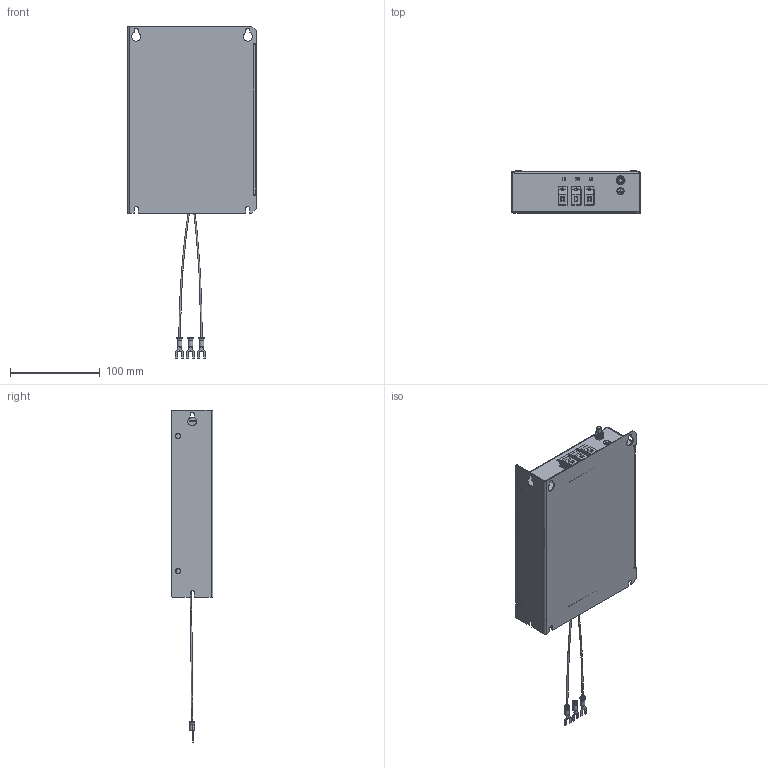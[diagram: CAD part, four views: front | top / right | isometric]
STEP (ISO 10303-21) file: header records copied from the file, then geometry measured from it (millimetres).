
FILE_DESCRIPTION (( 'STEP AP214' ), '1' );
FILE_NAME ('EFR-EFF-3E-16A.STEP', '2026-03-24T11:51:35', ( '' ), ( '' ), 'SwSTEP 2.0', 'SolidWorks 2025', '' );
FILE_SCHEMA (( 'AUTOMOTIVE_DESIGN' ));
Length unit declared in the file: millimetre
Products named in the file (14): EN ISO 7045 - M5 x 16; 1000-509_1; 1000-509.Harness1; gromet 8 mm; 1; 1000-509L; MPT410; 1000-509.Harness1_1; EFR-EFF-3E-16A; IS 3063 - 5; #8 Terminal Spade 16 - 14 AWG; IFI 114 - 43, FHBMBR; ISO 4035 - M5; ISO 7091 - 5 - 100 HV
Assembly tree (25 placements, depth 3):
  EFR-EFF-3E-16A
    1000-509.Harness1
      1000-509.Harness1_1
    1000-509_1
    1000-509L
    MPT410  x3
    EN ISO 7045 - M5 x 16
    ISO 4035 - M5  x2
    ISO 7091 - 5 - 100 HV  x2
    IS 3063 - 5
    1  x4
    gromet 8 mm
    #8 Terminal Spade 16 - 14 AWG  x3
    IFI 114 - 43, FHBMBR  x4
Bounding box: 143 x 46.46 x 369 mm (x, y, z)
Volume: 94874.9 mm3; surface area: 184076 mm2
Topology: 26 solids, 56 shells, 1792 faces, 4636 edges, 2999 vertices
Faces by surface type: plane 1315, cylinder 267, cone 112, bspline 68, torus 28, sphere 2
Full cylindrical faces by diameter (mm): 4.8 x4
Entity records: 24640 total; most frequent: CARTESIAN_POINT 6515, ORIENTED_EDGE 3836, DIRECTION 3333, EDGE_CURVE 1921, VERTEX_POINT 1240, VECTOR 1177, LINE 1177, AXIS2_PLACEMENT_3D 1078
